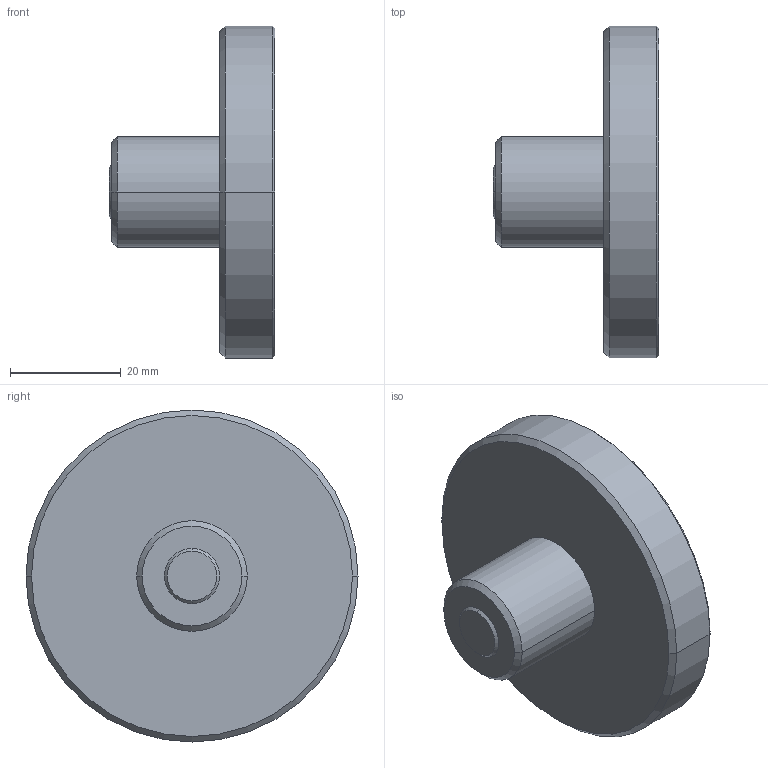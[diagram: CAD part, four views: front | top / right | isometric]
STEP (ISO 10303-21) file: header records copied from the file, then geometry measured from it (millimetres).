
FILE_DESCRIPTION((''),'2;1');
FILE_NAME('S600-10','2006-08-10T',('PAw'),(''),'PRO/ENGINEER BY PARAMETRIC TECHNOLOGY CORPORATION, 2004320','PRO/ENGINEER BY PARAMETRIC TECHNOLOGY CORPORATION, 2004320','');
FILE_SCHEMA(('CONFIG_CONTROL_DESIGN'));
Length unit declared in the file: millimetre
Products named in the file (1): S600-10
Bounding box: 30 x 60 x 60 mm (x, y, z)
Volume: 34288.9 mm3; surface area: 8565.9 mm2
Topology: 1 solids, 1 shells, 16 faces, 30 edges, 18 vertices
Faces by surface type: cone 8, plane 4, cylinder 4
Entity records: 442 total; most frequent: DIRECTION 80, CARTESIAN_POINT 64, ORIENTED_EDGE 60, AXIS2_PLACEMENT_3D 34, EDGE_CURVE 30, VERTEX_POINT 18, EDGE_LOOP 18, CIRCLE 18
